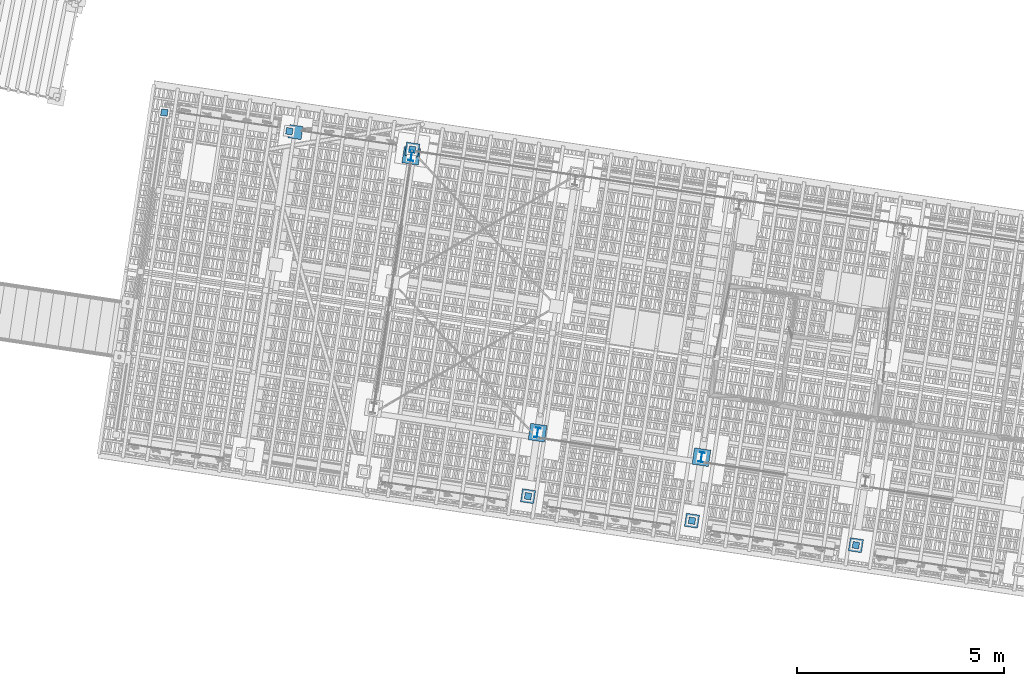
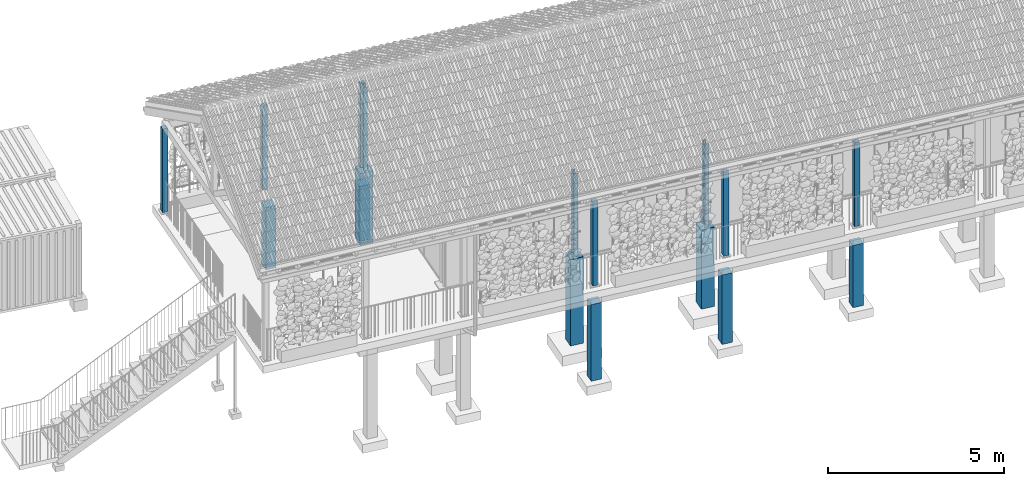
# One storey, part 3 of 131: 17 columns, 2 elements without a shape of their own.
"""IFC4 building model written with IfcOpenShell, lengths in metres."""

from ifc_helpers import new_model, si_unit, direction, frame, origin_with_axes, place, context, subcontext, project, spatial, polyline, rectangle, i_section, outline, extrude, material, material_profile, profile_set, profile_usage, type_object, element, aggregate, save


model = new_model("IFC4")

# Units and contexts
model_context = context("Model", 3, precision=1e-05, world=origin_with_axes(), true_north=direction((0.0, 1.0)))
body_context = subcontext(model_context, "Body", "Model", "MODEL_VIEW")
ifc_project = project(units=[si_unit("VOLUMEUNIT", "CUBIC_METRE"), si_unit("LENGTHUNIT", "METRE"), si_unit("AREAUNIT", "SQUARE_METRE")], contexts=[model_context])

# Site, building, storey
site_placement = place(None, origin_with_axes())
site = spatial("IfcSite", under=ifc_project, at=site_placement, Name="Lares · Rua das Mercês · artigo 4771")
building_placement = place(site_placement, frame((15.0, 9.7, 15.8), z_axis=(0.0, 0.0, 1.0), x_axis=(0.989015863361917, -0.147809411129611, 0.0)))
building = spatial("IfcBuilding", under=site, at=building_placement, Name="Casa Sobreposta")
storey_placement = place(building_placement, origin_with_axes())
storey = spatial("IfcBuildingStorey", under=building, at=storey_placement, Name="00 · Habitação e estacionamento", Elevation=15.8)

# Columns
ifc_material_1 = material(Name="Aço pintado / Stahl lackiert", Category="steel")
ifc_material_profile_1 = material_profile(ifc_material_1, i_section(OverallWidth=0.12, OverallDepth=0.24, WebThickness=0.0062, FlangeThickness=0.0098))
ifc_profile_set_1 = profile_set([ifc_material_profile_1], Name="IPE240")
ifc_profile_usage_1 = profile_usage(ifc_profile_set_1)
column_type_1 = type_object("IfcColumnType", Name="IPE240 / steel", PredefinedType="NOTDEFINED", material=ifc_profile_set_1)
column_1_placement = place(storey_placement, frame((0.0, 6.28, 0.0), z_axis=(0.0, 0.0, 1.0), x_axis=(1.0, 0.0, 0.0)))
element("IfcColumn", 1, at=column_1_placement, inside=storey, type_object=column_type_1, material=ifc_profile_usage_1, Name="Casa térrea · pilar metálico de referência", context=body_context, shape_type="SweptSolid", body=[
    extrude(i_section(OverallWidth=0.12, OverallDepth=0.24, WebThickness=0.0062, FlangeThickness=0.0098), origin_with_axes(), (0.0, 0.0, 1.0), 2.89),
])
ifc_profile_usage_2 = profile_usage(ifc_profile_set_1)
column_2_placement = place(storey_placement, frame((4.0, 0.12, 0.0), z_axis=(0.0, 0.0, 1.0), x_axis=(1.0, 0.0, 0.0)))
element("IfcColumn", 2, at=column_2_placement, inside=storey, type_object=column_type_1, material=ifc_profile_usage_2, Name="Casa térrea · pilar metálico de referência", context=body_context, shape_type="SweptSolid", body=[
    extrude(i_section(OverallWidth=0.12, OverallDepth=0.24, WebThickness=0.0062, FlangeThickness=0.0098), origin_with_axes(), (0.0, 0.0, 1.0), 2.89),
])
ifc_profile_usage_3 = profile_usage(ifc_profile_set_1)
column_3_placement = place(storey_placement, frame((8.0, 0.12, 0.0), z_axis=(0.0, 0.0, 1.0), x_axis=(1.0, 0.0, 0.0)))
element("IfcColumn", 3, at=column_3_placement, inside=storey, type_object=column_type_1, material=ifc_profile_usage_3, Name="Casa térrea · pilar metálico de referência", context=body_context, shape_type="SweptSolid", body=[
    extrude(i_section(OverallWidth=0.12, OverallDepth=0.24, WebThickness=0.0062, FlangeThickness=0.0098), origin_with_axes(), (0.0, 0.0, 1.0), 2.89),
])

# Assembly, columns
assembly_1_placement = place(storey_placement, origin_with_axes())
assembly_1 = element("IfcElementAssembly", 4, at=assembly_1_placement, inside=storey, Name="Varanda coberta · continuação integral da cobertura", ObjectType="COVERED_PODIUM_BALCONY", PredefinedType="USERDEFINED")
ifc_material_2 = material(Name="Madeira / Bauholz", Category="wood")
ifc_material_profile_2 = material_profile(ifc_material_2, rectangle(XDim=0.16, YDim=0.16))
ifc_profile_set_2 = profile_set([ifc_material_profile_2], Name="TIMBER0.160x0.160")
ifc_profile_usage_4 = profile_usage(ifc_profile_set_2)
column_type_2 = type_object("IfcColumnType", Name="TIMBER0.160x0.160 / timber", PredefinedType="NOTDEFINED", material=ifc_profile_set_2)
column_4_placement = place(assembly_1_placement, frame((-6.05, 6.43, -0.015), z_axis=(0.0, 0.0, 1.0), x_axis=(1.0, 0.0, 0.0)))
column_4 = element("IfcColumn", 5, at=column_4_placement, type_object=column_type_2, material=ifc_profile_usage_4, Name="Varanda coberta · pilar", context=body_context, shape_type="SweptSolid", body=[
    extrude(rectangle(XDim=0.16, YDim=0.16), origin_with_axes(), (0.0, 0.0, 1.0), 2.905),
])
ifc_profile_usage_5 = profile_usage(ifc_profile_set_2)
column_5_placement = place(assembly_1_placement, frame((-3.0, 6.43, -0.015), z_axis=(0.0, 0.0, 1.0), x_axis=(1.0, 0.0, 0.0)))
column_5 = element("IfcColumn", 6, at=column_5_placement, type_object=column_type_2, material=ifc_profile_usage_5, Name="Varanda coberta · pilar", context=body_context, shape_type="SweptSolid", body=[
    extrude(rectangle(XDim=0.16, YDim=0.16), origin_with_axes(), (0.0, 0.0, 1.0), 2.905),
])
ifc_profile_usage_6 = profile_usage(ifc_profile_set_2)
column_6_placement = place(assembly_1_placement, frame((0.0, 6.43, -0.015), z_axis=(0.0, 0.0, 1.0), x_axis=(1.0, 0.0, 0.0)))
column_6 = element("IfcColumn", 7, at=column_6_placement, type_object=column_type_2, material=ifc_profile_usage_6, Name="Varanda coberta · pilar", context=body_context, shape_type="SweptSolid", body=[
    extrude(rectangle(XDim=0.16, YDim=0.16), origin_with_axes(), (0.0, 0.0, 1.0), 2.905),
])
ifc_profile_usage_7 = profile_usage(ifc_profile_set_2)
column_7_placement = place(assembly_1_placement, frame((4.0, -1.43, -0.015), z_axis=(0.0, 0.0, 1.0), x_axis=(1.0, 0.0, 0.0)))
column_7 = element("IfcColumn", 8, at=column_7_placement, type_object=column_type_2, material=ifc_profile_usage_7, Name="Varanda coberta · pilar", context=body_context, shape_type="SweptSolid", body=[
    extrude(rectangle(XDim=0.16, YDim=0.16), origin_with_axes(), (0.0, 0.0, 1.0), 2.905),
])
ifc_profile_usage_8 = profile_usage(ifc_profile_set_2)
column_8_placement = place(assembly_1_placement, frame((8.0, -1.43, -0.015), z_axis=(0.0, 0.0, 1.0), x_axis=(1.0, 0.0, 0.0)))
column_8 = element("IfcColumn", 9, at=column_8_placement, type_object=column_type_2, material=ifc_profile_usage_8, Name="Varanda coberta · pilar", context=body_context, shape_type="SweptSolid", body=[
    extrude(rectangle(XDim=0.16, YDim=0.16), origin_with_axes(), (0.0, 0.0, 1.0), 2.905),
])
ifc_profile_usage_9 = profile_usage(ifc_profile_set_2)
column_9_placement = place(assembly_1_placement, frame((12.0, -1.43, -0.015), z_axis=(0.0, 0.0, 1.0), x_axis=(1.0, 0.0, 0.0)))
column_9 = element("IfcColumn", 10, at=column_9_placement, type_object=column_type_2, material=ifc_profile_usage_9, Name="Varanda coberta · pilar", context=body_context, shape_type="SweptSolid", body=[
    extrude(rectangle(XDim=0.16, YDim=0.16), origin_with_axes(), (0.0, 0.0, 1.0), 2.905),
])
aggregate(assembly_1, [column_4, column_5, column_6, column_7, column_8, column_9])

# Columns
ifc_material_3 = material(Name="Betão armado / Stahlbeton", Category="concrete")
column_10_placement = place(storey_placement, frame((0.0, 0.0, -2.5), z_axis=(0.0, 0.0, 1.0), x_axis=(1.0, 0.0, 0.0)))
element("IfcColumn", 11, at=column_10_placement, inside=storey, material=ifc_material_3, Name="Casa térrea · pedestal", context=body_context, shape_type="SweptSolid", body=[
    extrude(outline(polyline([(0.2, 6.08), (0.2, 6.48), (-0.2, 6.48), (-0.2, 6.08), (0.2, 6.08)])), origin_with_axes(), (0.0, 0.0, 1.0), 2.5),
])
column_11_placement = place(storey_placement, frame((0.0, 0.0, -3.0), z_axis=(0.0, 0.0, 1.0), x_axis=(1.0, 0.0, 0.0)))
element("IfcColumn", 12, at=column_11_placement, inside=storey, material=ifc_material_3, Name="Casa térrea · pedestal", context=body_context, shape_type="SweptSolid", body=[
    extrude(outline(polyline([(4.2, -0.08), (4.2, 0.32), (3.8, 0.32), (3.8, -0.08), (4.2, -0.08)])), origin_with_axes(), (0.0, 0.0, 1.0), 3.0),
])
column_12_placement = place(storey_placement, frame((0.0, 0.0, -2.75), z_axis=(0.0, 0.0, 1.0), x_axis=(1.0, 0.0, 0.0)))
element("IfcColumn", 13, at=column_12_placement, inside=storey, material=ifc_material_3, Name="Casa térrea · pedestal", context=body_context, shape_type="SweptSolid", body=[
    extrude(outline(polyline([(8.2, -0.08), (8.2, 0.32), (7.8, 0.32), (7.8, -0.08), (8.2, -0.08)])), origin_with_axes(), (0.0, 0.0, 1.0), 2.75),
])

# Assembly, columns
assembly_2_placement = place(storey_placement, origin_with_axes())
assembly_2 = element("IfcElementAssembly", 14, at=assembly_2_placement, inside=storey, Name="Pódio · terraço, casa térrea e cisterna", ObjectType="CISTERN_PODIUM", PredefinedType="USERDEFINED")
column_13_placement = place(assembly_2_placement, frame((0.0, 0.0, -2.75), z_axis=(0.0, 0.0, 1.0), x_axis=(1.0, 0.0, 0.0)))
column_13 = element("IfcColumn", 15, at=column_13_placement, material=ifc_material_3, Name="Pódio suspenso · apoio sobre o terreno", context=body_context, shape_type="SweptSolid", body=[
    extrude(outline(polyline([(-2.69, 6.27), (-2.69, 6.59), (-3.01, 6.59), (-3.01, 6.27), (-2.69, 6.27)])), origin_with_axes(), (0.0, 0.0, 1.0), 2.16),
])
column_14_placement = place(assembly_2_placement, frame((0.0, 0.0, -2.5), z_axis=(0.0, 0.0, 1.0), x_axis=(1.0, 0.0, 0.0)))
column_14 = element("IfcColumn", 16, at=column_14_placement, material=ifc_material_3, Name="Pódio suspenso · apoio sobre o terreno", context=body_context, shape_type="SweptSolid", body=[
    extrude(outline(polyline([(0.16, 6.27), (0.16, 6.59), (-0.16, 6.59), (-0.16, 6.27), (0.16, 6.27)])), origin_with_axes(), (0.0, 0.0, 1.0), 1.91),
])
column_15_placement = place(assembly_2_placement, frame((0.0, 0.0, -3.25), z_axis=(0.0, 0.0, 1.0), x_axis=(1.0, 0.0, 0.0)))
column_15 = element("IfcColumn", 17, at=column_15_placement, material=ifc_material_3, Name="Pódio suspenso · apoio sobre o terreno", context=body_context, shape_type="SweptSolid", body=[
    extrude(outline(polyline([(4.16, -1.59), (4.16, -1.27), (3.84, -1.27), (3.84, -1.59), (4.16, -1.59)])), origin_with_axes(), (0.0, 0.0, 1.0), 2.66),
])
column_16_placement = place(assembly_2_placement, frame((0.0, 0.0, -3.0), z_axis=(0.0, 0.0, 1.0), x_axis=(1.0, 0.0, 0.0)))
column_16 = element("IfcColumn", 18, at=column_16_placement, material=ifc_material_3, Name="Pódio suspenso · apoio sobre o terreno", context=body_context, shape_type="SweptSolid", body=[
    extrude(outline(polyline([(8.16, -1.59), (8.16, -1.27), (7.84, -1.27), (7.84, -1.59), (8.16, -1.59)])), origin_with_axes(), (0.0, 0.0, 1.0), 2.41),
])
column_17_placement = place(assembly_2_placement, frame((0.0, 0.0, -2.75), z_axis=(0.0, 0.0, 1.0), x_axis=(1.0, 0.0, 0.0)))
column_17 = element("IfcColumn", 19, at=column_17_placement, material=ifc_material_3, Name="Pódio suspenso · apoio sobre o terreno", context=body_context, shape_type="SweptSolid", body=[
    extrude(outline(polyline([(12.16, -1.59), (12.16, -1.27), (11.84, -1.27), (11.84, -1.59), (12.16, -1.59)])), origin_with_axes(), (0.0, 0.0, 1.0), 2.16),
])
aggregate(assembly_2, [column_13, column_14, column_15, column_16, column_17])

save(model, "model.ifc")
